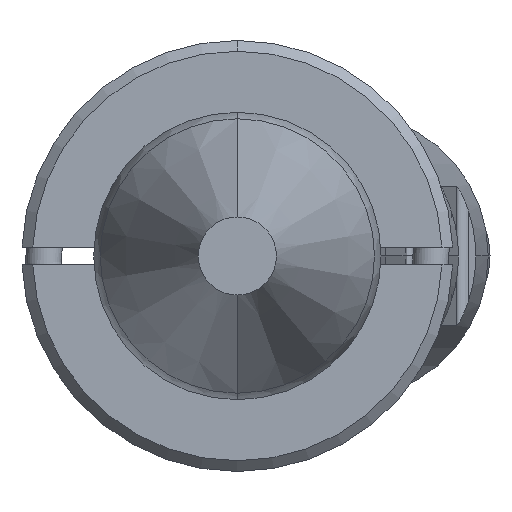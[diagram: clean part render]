
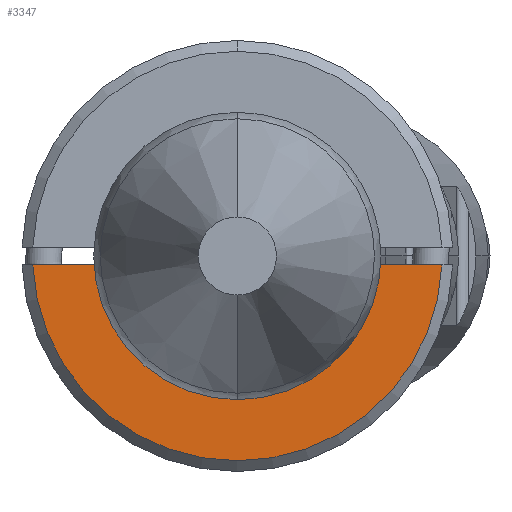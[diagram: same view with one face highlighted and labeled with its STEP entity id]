
A CAD part, front view. The second image highlights one B-rep face of the part: STEP entity #3347.
In plain terms, the highlighted planar face has unit normal (0, -1, 0).
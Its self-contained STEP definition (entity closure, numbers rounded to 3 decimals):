
#100 = CARTESIAN_POINT ( 'NONE',  ( -6., -6., 0. ) ) ;
#192 = CARTESIAN_POINT ( 'NONE',  ( -3.19, -6., -0.25 ) ) ;
#313 = EDGE_CURVE ( 'NONE', #2273, #3909, #1431, .T. ) ;
#345 = AXIS2_PLACEMENT_3D ( 'NONE', #3895, #1144, #2977 ) ;
#458 = AXIS2_PLACEMENT_3D ( 'NONE', #100, #2718, #1994 ) ;
#482 = CARTESIAN_POINT ( 'NONE',  ( 0., -6., 0. ) ) ;
#569 = CARTESIAN_POINT ( 'NONE',  ( 5.695, -6., -0.25 ) ) ;
#639 = CARTESIAN_POINT ( 'NONE',  ( -6., -6., -0.25 ) ) ;
#946 = LINE ( 'NONE', #639, #2775 ) ;
#1001 = DIRECTION ( 'NONE',  ( 1., 0., 0. ) ) ;
#1007 = ORIENTED_EDGE ( 'NONE', *, *, #2694, .T. ) ;
#1082 = LINE ( 'NONE', #1991, #2050 ) ;
#1144 = DIRECTION ( 'NONE',  ( 0., 1., 0. ) ) ;
#1431 = CIRCLE ( 'NONE', #1616, 3.2 ) ;
#1444 = PLANE ( 'NONE',  #458 ) ;
#1449 = EDGE_CURVE ( 'NONE', #2215, #2545, #946, .T. ) ;
#1473 = EDGE_CURVE ( 'NONE', #2273, #2669, #1082, .T. ) ;
#1616 = AXIS2_PLACEMENT_3D ( 'NONE', #482, #2269, #3552 ) ;
#1628 = DIRECTION ( 'NONE',  ( 0., -1., 0. ) ) ;
#1725 = CIRCLE ( 'NONE', #3788, 5.7 ) ;
#1846 = ORIENTED_EDGE ( 'NONE', *, *, #1473, .F. ) ;
#1898 = DIRECTION ( 'NONE',  ( 1., 0., 0. ) ) ;
#1991 = CARTESIAN_POINT ( 'NONE',  ( -6., -6., -0.25 ) ) ;
#1994 = DIRECTION ( 'NONE',  ( 0., 0., -1. ) ) ;
#2050 = VECTOR ( 'NONE', #1001, 1000. ) ;
#2153 = ORIENTED_EDGE ( 'NONE', *, *, #1449, .F. ) ;
#2183 = ORIENTED_EDGE ( 'NONE', *, *, #2513, .T. ) ;
#2207 = ORIENTED_EDGE ( 'NONE', *, *, #313, .T. ) ;
#2215 = VERTEX_POINT ( 'NONE', #2321 ) ;
#2262 = CARTESIAN_POINT ( 'NONE',  ( 0., -6., -3.2 ) ) ;
#2269 = DIRECTION ( 'NONE',  ( 0., 1., 0. ) ) ;
#2273 = VERTEX_POINT ( 'NONE', #4101 ) ;
#2321 = CARTESIAN_POINT ( 'NONE',  ( -5.695, -6., -0.25 ) ) ;
#2377 = EDGE_LOOP ( 'NONE', ( #2153, #1007, #1846, #2207, #2183 ) ) ;
#2513 = EDGE_CURVE ( 'NONE', #3909, #2545, #3448, .T. ) ;
#2545 = VERTEX_POINT ( 'NONE', #192 ) ;
#2621 = FACE_OUTER_BOUND ( 'NONE', #2377, .T. ) ;
#2669 = VERTEX_POINT ( 'NONE', #569 ) ;
#2694 = EDGE_CURVE ( 'NONE', #2215, #2669, #1725, .T. ) ;
#2718 = DIRECTION ( 'NONE',  ( 0., -1., 0. ) ) ;
#2775 = VECTOR ( 'NONE', #1898, 1000. ) ;
#2872 = CARTESIAN_POINT ( 'NONE',  ( 0., -6., 0. ) ) ;
#2909 = DIRECTION ( 'NONE',  ( 0., 0., -1. ) ) ;
#2977 = DIRECTION ( 'NONE',  ( 0., 0., -1. ) ) ;
#3347 = ADVANCED_FACE ( 'NONE', ( #2621 ), #1444, .T. ) ;
#3448 = CIRCLE ( 'NONE', #345, 3.2 ) ;
#3552 = DIRECTION ( 'NONE',  ( 0., 0., -1. ) ) ;
#3788 = AXIS2_PLACEMENT_3D ( 'NONE', #2872, #1628, #2909 ) ;
#3895 = CARTESIAN_POINT ( 'NONE',  ( 0., -6., 0. ) ) ;
#3909 = VERTEX_POINT ( 'NONE', #2262 ) ;
#4101 = CARTESIAN_POINT ( 'NONE',  ( 3.19, -6., -0.25 ) ) ;
